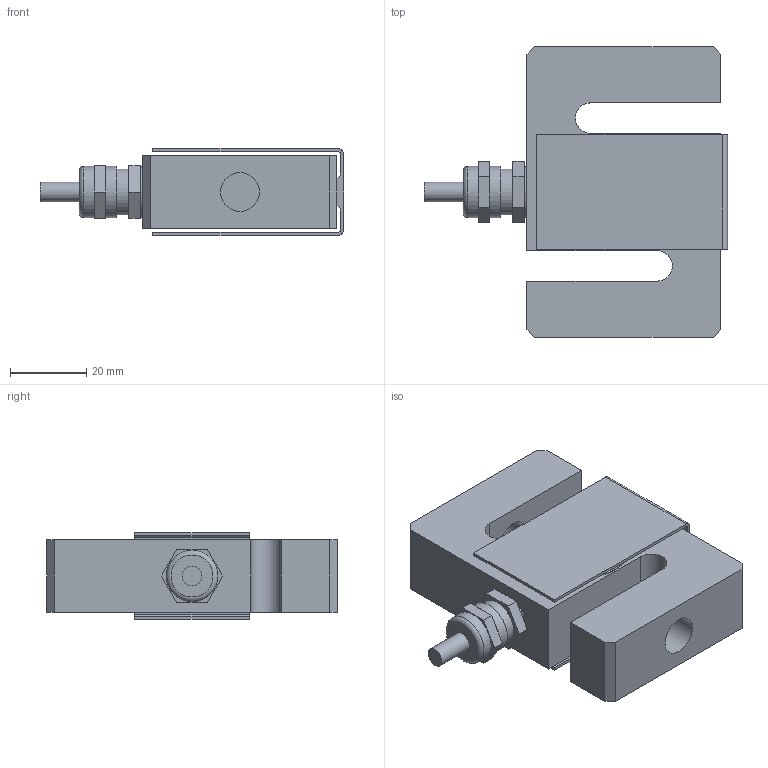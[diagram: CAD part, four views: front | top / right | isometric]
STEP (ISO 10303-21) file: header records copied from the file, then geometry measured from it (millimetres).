
FILE_DESCRIPTION(/* description */ (''),/* implementation_level */ '2;1');
FILE_NAME(/* name */ 'C:/Users/fardi/Dropbox/Anyload/Load Cell Models/3D Drawing/101/101BH-200kg v1.step',/* time_stamp */ '2020-01-21T14:11:30-08:00',/* author */ (''),/* organization */ (''),/* preprocessor_version */ 'ST-DEVELOPER v18',/* originating_system */ 'Autodesk Translation Framework v8.12.0.6',/* authorisation */ '');
FILE_SCHEMA (('AUTOMOTIVE_DESIGN { 1 0 10303 214 3 1 1 }'));
Length unit declared in the file: millimetre
Products named in the file (1): 101BH-200kg
Bounding box: 79.39 x 76.2 x 22.6 mm (x, y, z)
Volume: 62892.7 mm3; surface area: 22969.4 mm2
Topology: 1 solids, 1 shells, 74 faces, 202 edges, 142 vertices
Faces by surface type: plane 52, cylinder 15, torus 7
Full cylindrical faces by diameter (mm): 5.1 x1, 10.2 x2, 12 x1, 13.3 x1, 13.5 x2, 29.4 x2
Entity records: 2436 total; most frequent: DIRECTION 425, CARTESIAN_POINT 419, ORIENTED_EDGE 404, EDGE_CURVE 202, AXIS2_PLACEMENT_3D 148, VERTEX_POINT 142, LINE 129, VECTOR 129
